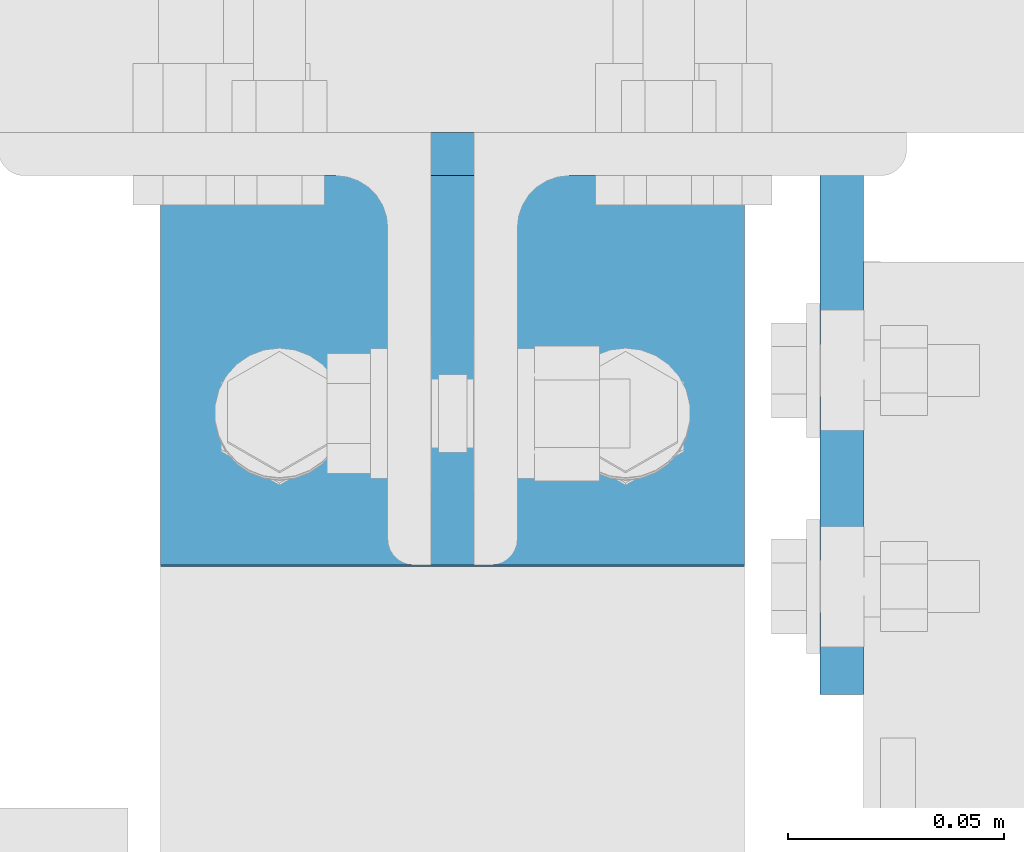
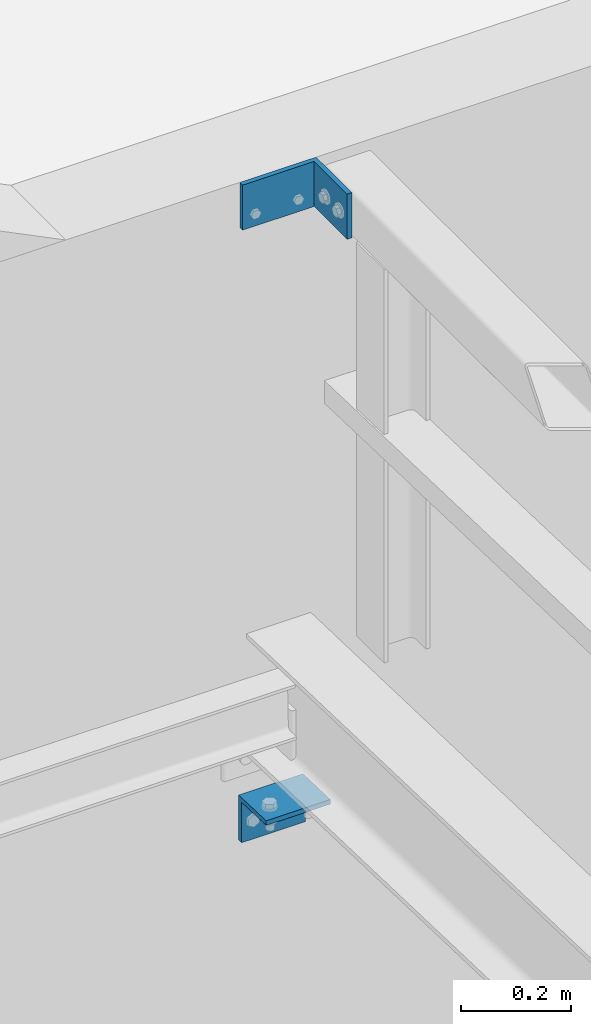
# One storey, part 123 of 123: 2 beams, 2 elements without a shape of their own.
"""IFC2X3 building model written with IfcOpenShell, lengths in millimetres."""

from ifc_helpers import new_model, si_unit, frame, origin_with_axes, place, context, subcontext, project, spatial, faceted_brep, material, type_object, element, aggregate, save


model = new_model("IFC2X3")

# Units and contexts
model_context = context("Model", 3, precision=1e-05, world=origin_with_axes())
body_context = subcontext(model_context, "Body", "Model", "MODEL_VIEW")
ifc_project = project(units=[si_unit("LENGTHUNIT", "METRE", prefix="MILLI"), si_unit("AREAUNIT", "SQUARE_METRE"), si_unit("VOLUMEUNIT", "CUBIC_METRE"), si_unit("MASSUNIT", "GRAM", prefix="KILO"), si_unit("TIMEUNIT", "SECOND"), si_unit("PLANEANGLEUNIT", "RADIAN"), si_unit("SOLIDANGLEUNIT", "STERADIAN"), si_unit("THERMODYNAMICTEMPERATUREUNIT", "DEGREE_CELSIUS"), si_unit("LUMINOUSINTENSITYUNIT", "LUMEN")], contexts=[model_context])

# Site, building, storey
site_placement = place(None, origin_with_axes())
site = spatial("IfcSite", under=ifc_project, at=site_placement, Name="Undefined", CompositionType="ELEMENT")
building_placement = place(site_placement, origin_with_axes())
building = spatial("IfcBuilding", under=site, at=building_placement, Name="Undefined", CompositionType="ELEMENT")
storey_placement = place(building_placement, origin_with_axes())
storey = spatial("IfcBuildingStorey", under=building, at=storey_placement, Name="Undefined", CompositionType="ELEMENT", Elevation=0.0)

# Assembly, beam
assembly_1_placement = place(storey_placement, origin_with_axes())
assembly_1 = element("IfcElementAssembly", 1, at=assembly_1_placement, inside=storey, Name="Steel Assembly", AssemblyPlace="NOTDEFINED", PredefinedType="RIGID_FRAME")
ifc_material = material(Name="STEEL/S235-E24")
beam_type_1 = type_object("IfcBeamType", Name="PL10*100", PredefinedType="NOTDEFINED")
beam_1_placement = place(assembly_1_placement, frame((39565.0, 15385.0, 8500.0), z_axis=(0.0, 0.0, 1.0), x_axis=(1.0, 0.0, 0.0)))
beam_1 = element("IfcBeam", 2, at=beam_1_placement, type_object=beam_type_1, material=ifc_material, Name="ATTACHE", ObjectType="PL10*100", context=body_context, shape_type="Brep", body=[
    faceted_brep([(0.0, -5.0, -50.0), (0.0, -5.0, 50.0), (0.0, 5.0, 50.0), (0.0, 5.0, -50.0), (160.0, 5.0, 50.0), (160.0, 5.0, -50.0), (150.0, -5.0, -50.0), (150.0, -5.0, 50.0), (160.0, -125.0, 50.0), (160.0, -125.0, -50.0), (150.0, -125.0, 50.0), (150.0, -125.0, -50.0)], [[[0, 1, 2, 3]], [[3, 2, 4, 5]], [[1, 0, 6, 7]], [[5, 4, 8, 9]], [[4, 2, 1, 7, 10, 8]], [[7, 6, 11, 10]], [[6, 0, 3, 5, 9, 11]], [[10, 11, 9, 8]]]),
])
aggregate(assembly_1, [beam_1])

assembly_2_placement = place(storey_placement, origin_with_axes())
assembly_2 = element("IfcElementAssembly", 3, at=assembly_2_placement, inside=storey, Name="Steel Assembly", AssemblyPlace="NOTDEFINED", PredefinedType="RIGID_FRAME")
beam_type_2 = type_object("IfcBeamType", Name="PL10*135", PredefinedType="NOTDEFINED")
beam_2_placement = place(assembly_2_placement, frame((39630.0000000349, 15384.999992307, 7092.38960015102), z_axis=(-1.0, 0.0, 0.0), x_axis=(0.0, 0.0, 1.0)))
beam_2 = element("IfcBeam", 4, at=beam_2_placement, type_object=beam_type_2, material=ifc_material, Name="ATTACHE", ObjectType="PL10*135", context=body_context, shape_type="Brep", body=[
    faceted_brep([(0.0, -5.0, -67.5), (0.0, -5.0, 67.5), (0.0, 5.0, 67.5), (0.0, 5.0, -67.5), (100.000000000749, 5.0, 67.5), (100.000000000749, 5.0, -67.5), (90.3431120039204, -5.0, -67.5), (90.3431120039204, -5.0, 67.5), (103.490585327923, -94.9573593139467, 67.5), (103.490585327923, -94.9573593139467, -67.5), (93.4966770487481, -95.3063540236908, 67.5), (93.4966770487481, -95.3063540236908, -67.5)], [[[0, 1, 2, 3]], [[3, 2, 4, 5]], [[1, 0, 6, 7]], [[5, 4, 8, 9]], [[4, 2, 1, 7, 10, 8]], [[7, 6, 11, 10]], [[6, 0, 3, 5, 9, 11]], [[10, 11, 9, 8]]]),
])
aggregate(assembly_2, [beam_2])

save(model, "model.ifc")
